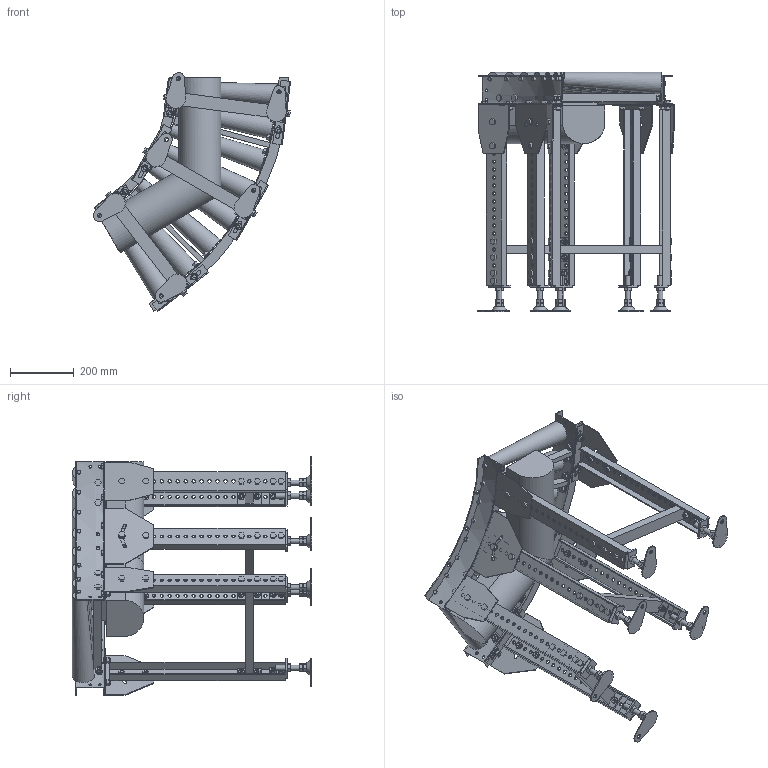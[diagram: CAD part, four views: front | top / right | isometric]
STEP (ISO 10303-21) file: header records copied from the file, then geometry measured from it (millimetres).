
FILE_DESCRIPTION( (''), '2;1');
FILE_NAME ('WEB-MCD-50-315-75-60°-C5.stp','2025-06-26T16:51:13',(''),(''),'spGate 20.6.2 (****-****-****-****)','','');
FILE_SCHEMA (('AUTOMOTIVE_DESIGN'));
Length unit declared in the file: millimetre
Products named in the file (45): WEB-MCD-50-315-75-60_-C5; TEMP_X_T-prt0; TEMP_X_T-prt1; TEMP_X_T-prt2; TEMP_X_T-prt3; TEMP_X_T-prt4; TEMP_X_T-prt5; TEMP_X_T-prt6; TEMP_X_T-prt7; TEMP_X_T-prt8; TEMP_X_T-prt9; TEMP_X_T-prt10; TEMP_X_T-prt11; TEMP_X_T-prt12; TEMP_X_T-prt13; TEMP_X_T-prt14; TEMP_X_T-prt15; TEMP_X_T-prt16; TEMP_X_T-prt17; TEMP_X_T-prt18; TEMP_X_T-prt19; TEMP_X_T-prt20; TEMP_X_T-prt21; TEMP_X_T-prt22; TEMP_X_T-prt23; TEMP_X_T-prt24; TEMP_X_T-prt25; TEMP_X_T-prt26; TEMP_X_T-prt27; TEMP_X_T-prt28; TEMP_X_T-prt29; TEMP_X_T-prt30; TEMP_X_T-prt31; TEMP_X_T-prt32; TEMP_X_T-prt33; TEMP_X_T-prt34; TEMP_X_T-prt35; TEMP_X_T-prt36; TEMP_X_T-prt37; TEMP_X_T-prt38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
Assembly tree (44 placements, depth 2):
  WEB-MCD-50-315-75-60_-C5
    TEMP_X_T-prt0
    TEMP_X_T-prt1
    TEMP_X_T-prt2
    TEMP_X_T-prt3
    TEMP_X_T-prt4
    TEMP_X_T-prt5
    TEMP_X_T-prt6
    TEMP_X_T-prt7
    TEMP_X_T-prt8
    TEMP_X_T-prt9
    TEMP_X_T-prt10
    TEMP_X_T-prt11
    TEMP_X_T-prt12
    TEMP_X_T-prt13
    TEMP_X_T-prt14
    TEMP_X_T-prt15
    TEMP_X_T-prt16
    TEMP_X_T-prt17
    TEMP_X_T-prt18
    TEMP_X_T-prt19
    TEMP_X_T-prt20
    TEMP_X_T-prt21
    TEMP_X_T-prt22
    TEMP_X_T-prt23
    TEMP_X_T-prt24
    TEMP_X_T-prt25
    TEMP_X_T-prt26
    TEMP_X_T-prt27
    TEMP_X_T-prt28
    TEMP_X_T-prt29
    TEMP_X_T-prt30
    TEMP_X_T-prt31
    TEMP_X_T-prt32
    TEMP_X_T-prt33
    TEMP_X_T-prt34
    TEMP_X_T-prt35
    TEMP_X_T-prt36
    TEMP_X_T-prt37
    TEMP_X_T-prt38
    TEMP_X_T-prt39
    TEMP_X_T-prt40
    TEMP_X_T-prt41
    TEMP_X_T-prt42
    TEMP_X_T-prt43
Bounding box: 618.28 x 750 x 748.55 mm (x, y, z)
Volume: 19963708 mm3; surface area: 2694527.4 mm2
Topology: 44 solids, 76 shells, 2754 faces, 6716 edges, 4319 vertices
Faces by surface type: plane 2324, cylinder 416, bspline 14
Full cylindrical faces by diameter (mm): 8.5 x8, 10 x72, 10.5 x138, 11 x6, 12 x16, 13 x6, 14 x6, 16 x6, 18.4 x48, 18.5 x12, 21 x24
Entity records: 139674 total; most frequent: CARTESIAN_POINT 17031, DIRECTION 13980, ORIENTED_EDGE 13432, COLOUR_RGB 9514, PRESENTATION_STYLE_ASSIGNMENT 9514, STYLED_ITEM 9514, EDGE_CURVE 6716, DRAUGHTING_PRE_DEFINED_CURVE_FONT 6716
